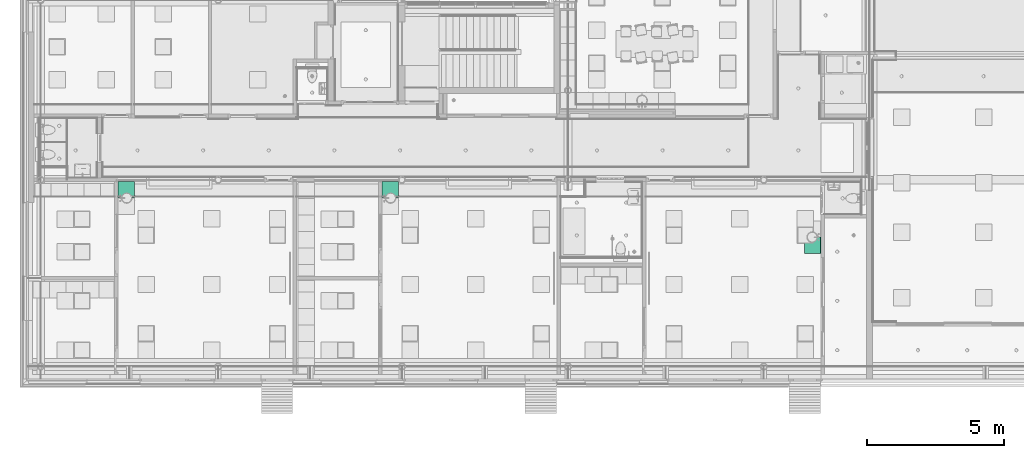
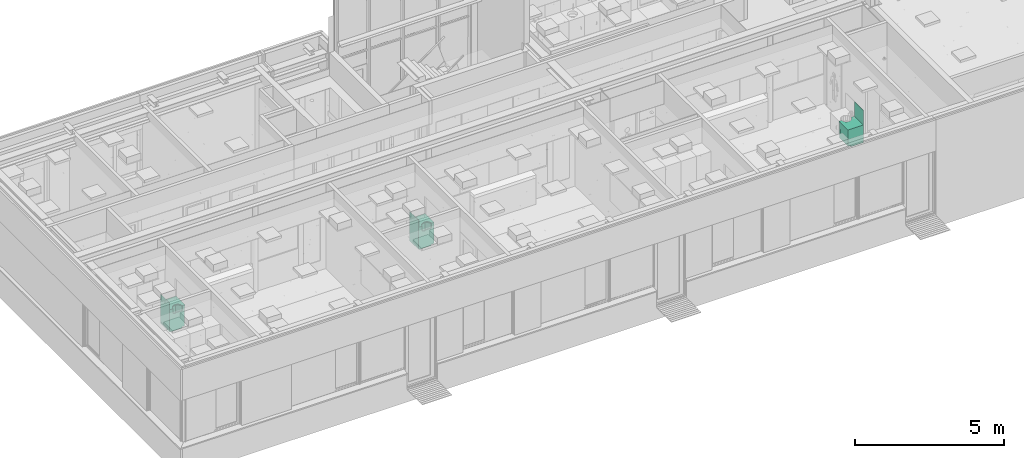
# One storey, part 301 of 347: 3 distribution elements.
"""IFC2X3 building model written with IfcOpenShell, lengths in millimetres."""

from ifc_helpers import new_model, entity, si_unit, converted_unit, derived_unit, money_unit, direction, frame, origin_with_axes, place, context, subcontext, project, spatial, faceted_brep, type_object, element, save


model = new_model("IFC2X3")

# Units and contexts
model_context = context("Model", 3, precision=0.01, world=origin_with_axes(), true_north=direction((0.0, 1.0)))
plan_context = context("Plan", 3, precision=0.01, world=origin_with_axes(), true_north=direction((0.0, 1.0)))
body_context = subcontext(model_context, "Body", "Model", "MODEL_VIEW")
ifc_project = project(units=[si_unit("LENGTHUNIT", "METRE", prefix="MILLI"), si_unit("AREAUNIT", "SQUARE_METRE"), si_unit("VOLUMEUNIT", "CUBIC_METRE"), converted_unit("PLANEANGLEUNIT", "DEGREE", entity("IfcPlaneAngleMeasure", 0.0174532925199), si_unit("PLANEANGLEUNIT", "RADIAN"), dimensions=[0, 0, 0, 0, 0, 0, 0]), money_unit("EUR"), converted_unit("TIMEUNIT", "Year", entity("IfcTimeMeasure", 31556926.0), si_unit("TIMEUNIT", "SECOND"), dimensions=[0, 0, 1, 0, 0, 0, 0]), si_unit("MASSUNIT", "GRAM", prefix="KILO"), si_unit("THERMODYNAMICTEMPERATUREUNIT", "DEGREE_CELSIUS"), si_unit("LUMINOUSINTENSITYUNIT", "LUMEN"), si_unit("ENERGYUNIT", "JOULE", prefix="MEGA"), derived_unit("THERMALCONDUCTANCEUNIT", [(si_unit("POWERUNIT", "WATT"), 1), (si_unit("LENGTHUNIT", "METRE"), -1), (si_unit("THERMODYNAMICTEMPERATUREUNIT", "KELVIN"), -1)]), derived_unit("SPECIFICHEATCAPACITYUNIT", [(si_unit("ENERGYUNIT", "JOULE"), 1), (si_unit("MASSUNIT", "GRAM", prefix="KILO"), -1), (si_unit("THERMODYNAMICTEMPERATUREUNIT", "KELVIN"), -1)]), derived_unit("MASSDENSITYUNIT", [(si_unit("MASSUNIT", "GRAM", prefix="KILO"), 1), (si_unit("VOLUMEUNIT", "CUBIC_METRE"), -1)])], contexts=[model_context, plan_context])

# Site, building, storey
site_placement = place(None, origin_with_axes())
site = spatial("IfcSite", under=ifc_project, at=site_placement, Name="Site", CompositionType="ELEMENT")
building_placement = place(site_placement, origin_with_axes())
building = spatial("IfcBuilding", under=site, at=building_placement, Name="Naam gebouw", CompositionType="ELEMENT")
storey_placement = place(building_placement, origin_with_axes())
storey = spatial("IfcBuildingStorey", under=building, at=storey_placement, Name="begane grond", CompositionType="ELEMENT", Elevation=0.0)

# Distribution elements
distribution_element_type = type_object("IfcDistributionElementType", Name="Onderkast recht 25")
distribution_element_1_placement = place(storey_placement, frame((8125.0, 12062.5, 0.0), z_axis=(0.0, 0.0, 1.0), x_axis=(0.0, 1.0, 0.0)))
element("IfcDistributionElement", 1, at=distribution_element_1_placement, inside=storey, type_object=distribution_element_type, Name="65 Beveiliging_82 pantryblok", context=body_context, shape_type="Brep", body=[
    faceted_brep([(-472.720779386, -444.012913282, 910.0), (-531.116982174, -483.03200852, 910.0), (-600.0, -496.733692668, 910.0), (-600.0, -600.0, 910.0), (0.0, -600.0, 910.0), (0.0, 0.0, 910.0), (-600.0, 0.0, 910.0), (-600.0, -136.733692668, 910.0), (-531.116982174, -150.435376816, 910.0), (-472.720779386, -189.454472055, 910.0), (-433.701684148, -247.850674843, 910.0), (-420.0, -316.733692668, 910.0), (-433.701684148, -385.616710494, 910.0), (-472.720779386, -444.012913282, 870.0), (-531.116982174, -483.03200852, 870.0), (-600.0, -496.733692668, 870.0), (-600.0, -600.0, 870.0), (0.0, -600.0, 870.0), (0.0, 0.0, 870.0), (-600.0, 0.0, 870.0), (-600.0, -136.733692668, 870.0), (-531.116982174, -150.435376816, 870.0), (-472.720779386, -189.454472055, 870.0), (-433.701684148, -247.850674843, 870.0), (-420.0, -316.733692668, 870.0), (-433.701684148, -385.616710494, 870.0)], [[[0, 1, 2, 3, 4, 5, 6, 7, 8, 9, 10, 11, 12]], [[1, 0, 13, 14]], [[2, 1, 14, 15]], [[2, 15, 16, 3]], [[16, 17, 4, 3]], [[17, 18, 5, 4]], [[18, 19, 6, 5]], [[20, 7, 6, 19]], [[8, 7, 20, 21]], [[9, 8, 21, 22]], [[10, 9, 22, 23]], [[11, 10, 23, 24]], [[12, 11, 24, 25]], [[0, 12, 25, 13]], [[21, 20, 19, 18, 17, 16, 15, 14, 13, 25, 24, 23, 22]]]),
    faceted_brep([(-18.0, -512.0, 852.0), (-18.0, -572.0, 852.0), (-582.0, -572.0, 852.0), (-582.0, -512.0, 852.0), (-18.0, -572.0, 870.0), (-18.0, -512.0, 870.0), (-582.0, -572.0, 870.0), (-582.0, -512.0, 870.0)], [[[0, 1, 2, 3]], [[4, 1, 0, 5]], [[1, 4, 6, 2]], [[3, 2, 6, 7]], [[5, 0, 3, 7]], [[4, 5, 7, 6]]]),
    faceted_brep([(-18.0, -9.0, 68.0), (-582.0, -9.0, 68.0), (-582.0, -9.0, 852.0), (-18.0, -9.0, 852.0), (-582.0, -18.0, 68.0), (-18.0, -18.0, 68.0), (-582.0, -18.0, 852.0), (-18.0, -18.0, 852.0)], [[[0, 1, 2, 3]], [[4, 1, 0, 5]], [[1, 4, 6, 2]], [[3, 2, 6, 7]], [[5, 0, 3, 7]], [[4, 5, 7, 6]]]),
    faceted_brep([(-582.0, -60.0, 852.0), (-582.0, 0.0, 852.0), (-18.0, 0.0, 852.0), (-18.0, -60.0, 852.0), (-582.0, 0.0, 870.0), (-582.0, -60.0, 870.0), (-18.0, 0.0, 870.0), (-18.0, -60.0, 870.0)], [[[0, 1, 2, 3]], [[4, 1, 0, 5]], [[1, 4, 6, 2]], [[3, 2, 6, 7]], [[5, 0, 3, 7]], [[4, 5, 7, 6]]]),
    faceted_brep([(0.0, -572.0, 50.0), (0.0, 0.0, 50.0), (0.0, 0.0, 870.0), (0.0, -572.0, 870.0), (-18.0, 0.0, 50.0), (-18.0, -572.0, 50.0), (-18.0, 0.0, 870.0), (-18.0, -572.0, 870.0)], [[[0, 1, 2, 3]], [[4, 1, 0, 5]], [[1, 4, 6, 2]], [[3, 2, 6, 7]], [[5, 0, 3, 7]], [[4, 5, 7, 6]]]),
    faceted_brep([(-582.0, -493.153270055, 710.0), (-582.0, -493.153270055, 870.0), (-582.0, -572.0, 870.0), (-582.0, -572.0, 50.0), (-582.0, 0.0, 50.0), (-582.0, 0.0, 870.0), (-582.0, -140.314115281, 870.0), (-582.0, -140.314115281, 710.0), (-582.0, -205.990597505, 710.0), (-582.0, -205.990597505, 690.0), (-582.0, -227.476787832, 690.0), (-582.0, -227.476787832, 710.0), (-600.0, -496.733692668, 870.0), (-600.0, -496.733692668, 710.0), (-600.0, -572.0, 870.0), (-600.0, -572.0, 50.0), (-600.0, 0.0, 50.0), (-600.0, 0.0, 870.0), (-600.0, -136.733692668, 870.0), (-600.0, -136.733692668, 710.0), (-585.150757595, -201.884450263, 710.0), (-600.0, -195.733692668, 710.0), (-594.564800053, -196.449250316, 710.0), (-589.5, -198.547159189, 710.0), (-585.150757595, -201.884450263, 690.0), (-600.0, -195.733692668, 690.0), (-600.0, -237.733692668, 690.0), (-594.564800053, -237.01813502, 690.0), (-589.5, -234.920226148, 690.0), (-585.150757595, -231.582935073, 690.0), (-589.5, -198.547159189, 690.0), (-594.564800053, -196.449250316, 690.0), (-585.150757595, -231.582935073, 710.0), (-600.0, -237.733692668, 710.0), (-589.5, -234.920226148, 710.0), (-594.564800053, -237.01813502, 710.0)], [[[0, 1, 2, 3, 4, 5, 6, 7, 8, 9, 10, 11]], [[12, 1, 0, 13]], [[1, 12, 14, 2]], [[15, 3, 2, 14]], [[3, 15, 16, 4]], [[4, 16, 17, 5]], [[18, 6, 5, 17]], [[7, 6, 18, 19]], [[20, 8, 7, 19, 21, 22, 23]], [[8, 20, 24, 9]], [[25, 26, 27, 28, 29, 10, 9, 24, 30, 31]], [[32, 11, 10, 29]], [[33, 13, 0, 11, 32, 34, 35]], [[13, 33, 26, 25, 21, 19, 18, 17, 16, 15, 14, 12]], [[22, 21, 25, 31]], [[23, 22, 31, 30]], [[20, 23, 30, 24]], [[33, 35, 27, 26]], [[35, 34, 28, 27]], [[34, 32, 29, 28]]]),
    faceted_brep([(-600.0, 0.0, 910.0), (0.0, 0.0, 910.0), (0.0, -6.0, 910.0), (-600.0, -6.0, 910.0), (-600.0, 0.0, 1200.0), (0.0, 0.0, 1200.0), (0.0, -6.0, 1200.0), (-600.0, -6.0, 1200.0)], [[[0, 1, 2, 3]], [[4, 5, 1, 0]], [[1, 5, 6, 2]], [[3, 2, 6, 7]], [[0, 3, 7, 4]], [[7, 6, 5, 4]]]),
    faceted_brep([(-496.0, -590.0, 386.0), (-506.0, -590.0, 386.0), (-506.0, -590.0, 396.0), (-496.0, -590.0, 396.0), (-496.0, -600.0, 386.0), (-506.0, -600.0, 386.0), (-506.0, -603.472963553, 386.30384494), (-506.0, -606.840402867, 387.206147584), (-506.0, -610.0, 388.679491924), (-506.0, -612.855752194, 390.679111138), (-506.0, -615.320888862, 393.144247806), (-506.0, -617.320508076, 396.0), (-506.0, -618.793852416, 399.159597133), (-506.0, -619.69615506, 402.527036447), (-506.0, -620.0, 406.0), (-506.0, -620.0, 516.0), (-506.0, -619.69615506, 519.472963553), (-506.0, -618.793852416, 522.840402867), (-506.0, -617.320508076, 526.0), (-506.0, -615.320888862, 528.855752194), (-506.0, -612.855752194, 531.320888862), (-506.0, -610.0, 533.320508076), (-506.0, -606.840402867, 534.793852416), (-506.0, -603.472963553, 535.69615506), (-506.0, -600.0, 536.0), (-506.0, -590.0, 536.0), (-506.0, -590.0, 526.0), (-506.0, -600.0, 526.0), (-506.0, -601.736481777, 525.84807753), (-506.0, -603.420201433, 525.396926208), (-506.0, -605.0, 524.660254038), (-506.0, -606.427876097, 523.660444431), (-506.0, -607.660444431, 522.427876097), (-506.0, -608.660254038, 521.0), (-506.0, -609.396926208, 519.420201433), (-506.0, -609.84807753, 517.736481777), (-506.0, -610.0, 516.0), (-506.0, -610.0, 406.0), (-506.0, -609.84807753, 404.263518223), (-506.0, -609.396926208, 402.579798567), (-506.0, -608.660254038, 401.0), (-506.0, -607.660444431, 399.572123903), (-506.0, -606.427876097, 398.339555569), (-506.0, -605.0, 397.339745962), (-506.0, -603.420201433, 396.603073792), (-506.0, -601.736481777, 396.15192247), (-506.0, -600.0, 396.0), (-496.0, -600.0, 396.0), (-496.0, -601.736481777, 396.15192247), (-496.0, -603.420201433, 396.603073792), (-496.0, -605.0, 397.339745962), (-496.0, -606.427876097, 398.339555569), (-496.0, -607.660444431, 399.572123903), (-496.0, -608.660254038, 401.0), (-496.0, -609.396926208, 402.579798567), (-496.0, -609.84807753, 404.263518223), (-496.0, -610.0, 406.0), (-496.0, -610.0, 516.0), (-496.0, -609.84807753, 517.736481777), (-496.0, -609.396926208, 519.420201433), (-496.0, -608.660254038, 521.0), (-496.0, -607.660444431, 522.427876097), (-496.0, -606.427876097, 523.660444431), (-496.0, -605.0, 524.660254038), (-496.0, -603.420201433, 525.396926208), (-496.0, -601.736481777, 525.84807753), (-496.0, -600.0, 526.0), (-496.0, -590.0, 526.0), (-496.0, -590.0, 536.0), (-496.0, -600.0, 536.0), (-496.0, -603.472963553, 535.69615506), (-496.0, -606.840402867, 534.793852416), (-496.0, -610.0, 533.320508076), (-496.0, -612.855752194, 531.320888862), (-496.0, -615.320888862, 528.855752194), (-496.0, -617.320508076, 526.0), (-496.0, -618.793852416, 522.840402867), (-496.0, -619.69615506, 519.472963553), (-496.0, -620.0, 516.0), (-496.0, -620.0, 406.0), (-496.0, -619.69615506, 402.527036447), (-496.0, -618.793852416, 399.159597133), (-496.0, -617.320508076, 396.0), (-496.0, -615.320888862, 393.144247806), (-496.0, -612.855752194, 390.679111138), (-496.0, -610.0, 388.679491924), (-496.0, -606.840402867, 387.206147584), (-496.0, -603.472963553, 386.30384494)], [[[0, 1, 2, 3]], [[4, 5, 1, 0]], [[1, 5, 6, 7, 8, 9, 10, 11, 12, 13, 14, 15, 16, 17, 18, 19, 20, 21, 22, 23, 24, 25, 26, 27, 28, 29, 30, 31, 32, 33, 34, 35, 36, 37, 38, 39, 40, 41, 42, 43, 44, 45, 46, 2]], [[3, 2, 46, 47]], [[0, 3, 47, 48, 49, 50, 51, 52, 53, 54, 55, 56, 57, 58, 59, 60, 61, 62, 63, 64, 65, 66, 67, 68, 69, 70, 71, 72, 73, 74, 75, 76, 77, 78, 79, 80, 81, 82, 83, 84, 85, 86, 87, 4]], [[87, 6, 5, 4]], [[86, 7, 6, 87]], [[85, 8, 7, 86]], [[84, 9, 8, 85]], [[83, 10, 9, 84]], [[82, 11, 10, 83]], [[81, 12, 11, 82]], [[80, 13, 12, 81]], [[79, 14, 13, 80]], [[78, 15, 14, 79]], [[77, 16, 15, 78]], [[76, 17, 16, 77]], [[75, 18, 17, 76]], [[74, 19, 18, 75]], [[73, 20, 19, 74]], [[72, 21, 20, 73]], [[71, 22, 21, 72]], [[70, 23, 22, 71]], [[69, 24, 23, 70]], [[68, 25, 24, 69]], [[67, 26, 25, 68]], [[66, 27, 26, 67]], [[65, 28, 27, 66]], [[64, 29, 28, 65]], [[63, 30, 29, 64]], [[62, 31, 30, 63]], [[61, 32, 31, 62]], [[60, 33, 32, 61]], [[59, 34, 33, 60]], [[58, 35, 34, 59]], [[57, 36, 35, 58]], [[56, 37, 36, 57]], [[55, 38, 37, 56]], [[54, 39, 38, 55]], [[53, 40, 39, 54]], [[52, 41, 40, 53]], [[51, 42, 41, 52]], [[50, 43, 42, 51]], [[49, 44, 43, 50]], [[48, 45, 44, 49]], [[47, 46, 45, 48]]]),
    faceted_brep([(-0.999999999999, -572.0, 51.0), (-0.999999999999, -590.0, 51.0), (-599.0, -590.0, 51.0), (-599.0, -572.0, 51.0), (-0.999999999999, -572.0, 869.0), (-0.999999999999, -590.0, 869.0), (-599.0, -590.0, 869.0), (-599.0, -572.0, 869.0)], [[[0, 1, 2, 3]], [[4, 5, 1, 0]], [[1, 5, 6, 2]], [[3, 2, 6, 7]], [[0, 3, 7, 4]], [[7, 6, 5, 4]]]),
    faceted_brep([(-18.0, -572.0, 50.0), (-18.0, -572.0, 68.0), (-582.0, -572.0, 68.0), (-582.0, -572.0, 50.0), (-18.0, 0.0, 50.0), (-18.0, 0.0, 68.0), (-582.0, 0.0, 68.0), (-582.0, 0.0, 50.0)], [[[0, 1, 2, 3]], [[4, 5, 1, 0]], [[1, 5, 6, 2]], [[3, 2, 6, 7]], [[0, 3, 7, 4]], [[7, 6, 5, 4]]]),
    faceted_brep([(0.0, -482.0, 0.0), (0.0, -482.0, 50.0), (-600.0, -482.0, 50.0), (-600.0, -482.0, 0.0), (0.0, 0.0, 0.0), (0.0, 0.0, 50.0), (-600.0, 0.0, 50.0), (-600.0, 0.0, 0.0)], [[[0, 1, 2, 3]], [[4, 5, 1, 0]], [[1, 5, 6, 2]], [[3, 2, 6, 7]], [[0, 3, 7, 4]], [[7, 6, 5, 4]]]),
])
distribution_element_2_placement = place(storey_placement, frame((33825.0, 9427.5, 0.0), z_axis=(0.0, 0.0, 1.0), x_axis=(0.0, -1.0, 0.0)))
element("IfcDistributionElement", 2, at=distribution_element_2_placement, inside=storey, type_object=distribution_element_type, Name="65 Beveiliging_82 pantryblok", context=body_context, shape_type="Brep", body=[
    faceted_brep([(-600.0, -136.733692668, 680.0), (-600.0, -136.733692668, 720.0), (-600.0, 0.0, 720.0), (-600.0, 0.0, 680.0), (-531.116982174, -150.435376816, 720.0), (-531.116982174, -150.435376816, 680.0), (-531.116982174, -483.03200852, 720.0), (-600.0, -496.733692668, 720.0), (-600.0, -600.0, 720.0), (0.0, -600.0, 720.0), (0.0, 0.0, 720.0), (-472.720779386, -189.454472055, 720.0), (-433.701684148, -247.850674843, 720.0), (-420.0, -316.733692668, 720.0), (-433.701684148, -385.616710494, 720.0), (-472.720779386, -444.012913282, 720.0), (0.0, 0.0, 680.0), (0.0, -600.0, 680.0), (-600.0, -600.0, 680.0), (-600.0, -496.733692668, 680.0), (-531.116982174, -483.03200852, 680.0), (-472.720779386, -444.012913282, 680.0), (-433.701684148, -385.616710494, 680.0), (-420.0, -316.733692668, 680.0), (-433.701684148, -247.850674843, 680.0), (-472.720779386, -189.454472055, 680.0)], [[[0, 1, 2, 3]], [[4, 1, 0, 5]], [[6, 7, 8, 9, 10, 2, 1, 4, 11, 12, 13, 14, 15]], [[16, 3, 2, 10]], [[5, 0, 3, 16, 17, 18, 19, 20, 21, 22, 23, 24, 25]], [[11, 4, 5, 25]], [[7, 6, 20, 19]], [[7, 19, 18, 8]], [[18, 17, 9, 8]], [[17, 16, 10, 9]], [[12, 11, 25, 24]], [[13, 12, 24, 23]], [[14, 13, 23, 22]], [[15, 14, 22, 21]], [[6, 15, 21, 20]]]),
    faceted_brep([(-18.0, -512.0, 662.0), (-18.0, -572.0, 662.0), (-582.0, -572.0, 662.0), (-582.0, -512.0, 662.0), (-18.0, -572.0, 680.0), (-18.0, -512.0, 680.0), (-582.0, -572.0, 680.0), (-582.0, -512.0, 680.0)], [[[0, 1, 2, 3]], [[4, 1, 0, 5]], [[1, 4, 6, 2]], [[3, 2, 6, 7]], [[5, 0, 3, 7]], [[4, 5, 7, 6]]]),
    faceted_brep([(-18.0, -9.0, 68.0), (-582.0, -9.0, 68.0), (-582.0, -9.0, 662.0), (-18.0, -9.0, 662.0), (-582.0, -18.0, 68.0), (-18.0, -18.0, 68.0), (-582.0, -18.0, 662.0), (-18.0, -18.0, 662.0)], [[[0, 1, 2, 3]], [[4, 1, 0, 5]], [[1, 4, 6, 2]], [[3, 2, 6, 7]], [[5, 0, 3, 7]], [[4, 5, 7, 6]]]),
    faceted_brep([(-582.0, -60.0, 662.0), (-582.0, 0.0, 662.0), (-18.0, 0.0, 662.0), (-18.0, -60.0, 662.0), (-582.0, 0.0, 680.0), (-582.0, -60.0, 680.0), (-18.0, 0.0, 680.0), (-18.0, -60.0, 680.0)], [[[0, 1, 2, 3]], [[4, 1, 0, 5]], [[1, 4, 6, 2]], [[3, 2, 6, 7]], [[5, 0, 3, 7]], [[4, 5, 7, 6]]]),
    faceted_brep([(0.0, -572.0, 50.0), (0.0, 0.0, 50.0), (0.0, 0.0, 680.0), (0.0, -572.0, 680.0), (-18.0, 0.0, 50.0), (-18.0, -572.0, 50.0), (-18.0, 0.0, 680.0), (-18.0, -572.0, 680.0)], [[[0, 1, 2, 3]], [[4, 1, 0, 5]], [[1, 4, 6, 2]], [[3, 2, 6, 7]], [[5, 0, 3, 7]], [[4, 5, 7, 6]]]),
    faceted_brep([(-585.150757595, -231.582935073, 520.0), (-582.0, -227.476787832, 520.0), (-582.0, -227.476787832, 500.0), (-585.150757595, -231.582935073, 500.0), (-582.0, -493.153270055, 520.0), (-589.5, -234.920226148, 520.0), (-594.564800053, -237.01813502, 520.0), (-600.0, -237.733692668, 520.0), (-600.0, -496.733692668, 520.0), (-582.0, -140.314115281, 520.0), (-582.0, -205.990597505, 520.0), (-582.0, -205.990597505, 500.0), (-582.0, -493.153270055, 680.0), (-582.0, -572.0, 680.0), (-582.0, -572.0, 50.0), (-582.0, 0.0, 50.0), (-582.0, 0.0, 680.0), (-582.0, -140.314115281, 680.0), (-600.0, -195.733692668, 500.0), (-600.0, -237.733692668, 500.0), (-594.564800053, -237.01813502, 500.0), (-589.5, -234.920226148, 500.0), (-585.150757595, -201.884450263, 500.0), (-589.5, -198.547159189, 500.0), (-594.564800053, -196.449250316, 500.0), (-600.0, -195.733692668, 520.0), (-600.0, -136.733692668, 520.0), (-600.0, -136.733692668, 680.0), (-600.0, 0.0, 680.0), (-600.0, 0.0, 50.0), (-600.0, -572.0, 50.0), (-600.0, -572.0, 680.0), (-600.0, -496.733692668, 680.0), (-594.564800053, -196.449250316, 520.0), (-589.5, -198.547159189, 520.0), (-585.150757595, -201.884450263, 520.0)], [[[0, 1, 2, 3]], [[4, 1, 0, 5, 6, 7, 8]], [[9, 10, 11, 2, 1, 4, 12, 13, 14, 15, 16, 17]], [[18, 19, 20, 21, 3, 2, 11, 22, 23, 24]], [[5, 0, 3, 21]], [[6, 5, 21, 20]], [[7, 6, 20, 19]], [[25, 26, 27, 28, 29, 30, 31, 32, 8, 7, 19, 18]], [[32, 12, 4, 8]], [[26, 25, 33, 34, 35, 10, 9]], [[10, 35, 22, 11]], [[12, 32, 31, 13]], [[30, 14, 13, 31]], [[14, 30, 29, 15]], [[15, 29, 28, 16]], [[27, 17, 16, 28]], [[17, 27, 26, 9]], [[35, 34, 23, 22]], [[34, 33, 24, 23]], [[33, 25, 18, 24]]]),
    faceted_brep([(-600.0, 0.0, 720.0), (0.0, 0.0, 720.0), (0.0, -6.0, 720.0), (-600.0, -6.0, 720.0), (-600.0, 0.0, 1320.0), (0.0, 0.0, 1320.0), (0.0, -6.0, 1320.0), (-600.0, -6.0, 1320.0)], [[[0, 1, 2, 3]], [[4, 5, 1, 0]], [[1, 5, 6, 2]], [[3, 2, 6, 7]], [[0, 3, 7, 4]], [[7, 6, 5, 4]]]),
    faceted_brep([(-496.0, -590.0, 291.0), (-506.0, -590.0, 291.0), (-506.0, -590.0, 301.0), (-496.0, -590.0, 301.0), (-496.0, -600.0, 291.0), (-506.0, -600.0, 291.0), (-506.0, -603.472963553, 291.30384494), (-506.0, -606.840402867, 292.206147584), (-506.0, -610.0, 293.679491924), (-506.0, -612.855752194, 295.679111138), (-506.0, -615.320888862, 298.144247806), (-506.0, -617.320508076, 301.0), (-506.0, -618.793852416, 304.159597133), (-506.0, -619.69615506, 307.527036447), (-506.0, -620.0, 311.0), (-506.0, -620.0, 421.0), (-506.0, -619.69615506, 424.472963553), (-506.0, -618.793852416, 427.840402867), (-506.0, -617.320508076, 431.0), (-506.0, -615.320888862, 433.855752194), (-506.0, -612.855752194, 436.320888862), (-506.0, -610.0, 438.320508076), (-506.0, -606.840402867, 439.793852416), (-506.0, -603.472963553, 440.69615506), (-506.0, -600.0, 441.0), (-506.0, -590.0, 441.0), (-506.0, -590.0, 431.0), (-506.0, -600.0, 431.0), (-506.0, -601.736481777, 430.84807753), (-506.0, -603.420201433, 430.396926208), (-506.0, -605.0, 429.660254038), (-506.0, -606.427876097, 428.660444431), (-506.0, -607.660444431, 427.427876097), (-506.0, -608.660254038, 426.0), (-506.0, -609.396926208, 424.420201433), (-506.0, -609.84807753, 422.736481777), (-506.0, -610.0, 421.0), (-506.0, -610.0, 311.0), (-506.0, -609.84807753, 309.263518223), (-506.0, -609.396926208, 307.579798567), (-506.0, -608.660254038, 306.0), (-506.0, -607.660444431, 304.572123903), (-506.0, -606.427876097, 303.339555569), (-506.0, -605.0, 302.339745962), (-506.0, -603.420201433, 301.603073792), (-506.0, -601.736481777, 301.15192247), (-506.0, -600.0, 301.0), (-496.0, -600.0, 301.0), (-496.0, -601.736481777, 301.15192247), (-496.0, -603.420201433, 301.603073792), (-496.0, -605.0, 302.339745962), (-496.0, -606.427876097, 303.339555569), (-496.0, -607.660444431, 304.572123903), (-496.0, -608.660254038, 306.0), (-496.0, -609.396926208, 307.579798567), (-496.0, -609.84807753, 309.263518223), (-496.0, -610.0, 311.0), (-496.0, -610.0, 421.0), (-496.0, -609.84807753, 422.736481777), (-496.0, -609.396926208, 424.420201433), (-496.0, -608.660254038, 426.0), (-496.0, -607.660444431, 427.427876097), (-496.0, -606.427876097, 428.660444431), (-496.0, -605.0, 429.660254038), (-496.0, -603.420201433, 430.396926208), (-496.0, -601.736481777, 430.84807753), (-496.0, -600.0, 431.0), (-496.0, -590.0, 431.0), (-496.0, -590.0, 441.0), (-496.0, -600.0, 441.0), (-496.0, -603.472963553, 440.69615506), (-496.0, -606.840402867, 439.793852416), (-496.0, -610.0, 438.320508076), (-496.0, -612.855752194, 436.320888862), (-496.0, -615.320888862, 433.855752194), (-496.0, -617.320508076, 431.0), (-496.0, -618.793852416, 427.840402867), (-496.0, -619.69615506, 424.472963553), (-496.0, -620.0, 421.0), (-496.0, -620.0, 311.0), (-496.0, -619.69615506, 307.527036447), (-496.0, -618.793852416, 304.159597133), (-496.0, -617.320508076, 301.0), (-496.0, -615.320888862, 298.144247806), (-496.0, -612.855752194, 295.679111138), (-496.0, -610.0, 293.679491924), (-496.0, -606.840402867, 292.206147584), (-496.0, -603.472963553, 291.30384494)], [[[0, 1, 2, 3]], [[4, 5, 1, 0]], [[1, 5, 6, 7, 8, 9, 10, 11, 12, 13, 14, 15, 16, 17, 18, 19, 20, 21, 22, 23, 24, 25, 26, 27, 28, 29, 30, 31, 32, 33, 34, 35, 36, 37, 38, 39, 40, 41, 42, 43, 44, 45, 46, 2]], [[3, 2, 46, 47]], [[0, 3, 47, 48, 49, 50, 51, 52, 53, 54, 55, 56, 57, 58, 59, 60, 61, 62, 63, 64, 65, 66, 67, 68, 69, 70, 71, 72, 73, 74, 75, 76, 77, 78, 79, 80, 81, 82, 83, 84, 85, 86, 87, 4]], [[87, 6, 5, 4]], [[86, 7, 6, 87]], [[85, 8, 7, 86]], [[84, 9, 8, 85]], [[83, 10, 9, 84]], [[82, 11, 10, 83]], [[81, 12, 11, 82]], [[80, 13, 12, 81]], [[79, 14, 13, 80]], [[78, 15, 14, 79]], [[77, 16, 15, 78]], [[76, 17, 16, 77]], [[75, 18, 17, 76]], [[74, 19, 18, 75]], [[73, 20, 19, 74]], [[72, 21, 20, 73]], [[71, 22, 21, 72]], [[70, 23, 22, 71]], [[69, 24, 23, 70]], [[68, 25, 24, 69]], [[67, 26, 25, 68]], [[66, 27, 26, 67]], [[65, 28, 27, 66]], [[64, 29, 28, 65]], [[63, 30, 29, 64]], [[62, 31, 30, 63]], [[61, 32, 31, 62]], [[60, 33, 32, 61]], [[59, 34, 33, 60]], [[58, 35, 34, 59]], [[57, 36, 35, 58]], [[56, 37, 36, 57]], [[55, 38, 37, 56]], [[54, 39, 38, 55]], [[53, 40, 39, 54]], [[52, 41, 40, 53]], [[51, 42, 41, 52]], [[50, 43, 42, 51]], [[49, 44, 43, 50]], [[48, 45, 44, 49]], [[47, 46, 45, 48]]]),
    faceted_brep([(-0.999999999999, -572.0, 51.0), (-0.999999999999, -590.0, 51.0), (-599.0, -590.0, 51.0), (-599.0, -572.0, 51.0), (-0.999999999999, -572.0, 679.0), (-0.999999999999, -590.0, 679.0), (-599.0, -590.0, 679.0), (-599.0, -572.0, 679.0)], [[[0, 1, 2, 3]], [[4, 5, 1, 0]], [[1, 5, 6, 2]], [[3, 2, 6, 7]], [[0, 3, 7, 4]], [[7, 6, 5, 4]]]),
    faceted_brep([(-18.0, -572.0, 50.0), (-18.0, -572.0, 68.0), (-582.0, -572.0, 68.0), (-582.0, -572.0, 50.0), (-18.0, 0.0, 50.0), (-18.0, 0.0, 68.0), (-582.0, 0.0, 68.0), (-582.0, 0.0, 50.0)], [[[0, 1, 2, 3]], [[4, 5, 1, 0]], [[1, 5, 6, 2]], [[3, 2, 6, 7]], [[0, 3, 7, 4]], [[7, 6, 5, 4]]]),
    faceted_brep([(0.0, -482.0, 0.0), (0.0, -482.0, 50.0), (-600.0, -482.0, 50.0), (-600.0, -482.0, 0.0), (0.0, 0.0, 0.0), (0.0, 0.0, 50.0), (-600.0, 0.0, 50.0), (-600.0, 0.0, 0.0)], [[[0, 1, 2, 3]], [[4, 5, 1, 0]], [[1, 5, 6, 2]], [[3, 2, 6, 7]], [[0, 3, 7, 4]], [[7, 6, 5, 4]]]),
])
distribution_element_3_placement = place(storey_placement, frame((17775.0, 12062.5, 0.0), z_axis=(0.0, 0.0, 1.0), x_axis=(0.0, 1.0, 0.0)))
element("IfcDistributionElement", 3, at=distribution_element_3_placement, inside=storey, type_object=distribution_element_type, Name="65 Beveiliging_82 pantryblok", context=body_context, shape_type="Brep", body=[
    faceted_brep([(-472.720779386, -444.012913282, 910.0), (-531.116982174, -483.03200852, 910.0), (-600.0, -496.733692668, 910.0), (-600.0, -600.0, 910.0), (0.0, -600.0, 910.0), (0.0, 0.0, 910.0), (-600.0, 0.0, 910.0), (-600.0, -136.733692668, 910.0), (-531.116982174, -150.435376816, 910.0), (-472.720779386, -189.454472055, 910.0), (-433.701684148, -247.850674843, 910.0), (-420.0, -316.733692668, 910.0), (-433.701684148, -385.616710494, 910.0), (-472.720779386, -444.012913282, 870.0), (-531.116982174, -483.03200852, 870.0), (-600.0, -496.733692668, 870.0), (-600.0, -600.0, 870.0), (0.0, -600.0, 870.0), (0.0, 0.0, 870.0), (-600.0, 0.0, 870.0), (-600.0, -136.733692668, 870.0), (-531.116982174, -150.435376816, 870.0), (-472.720779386, -189.454472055, 870.0), (-433.701684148, -247.850674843, 870.0), (-420.0, -316.733692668, 870.0), (-433.701684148, -385.616710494, 870.0)], [[[0, 1, 2, 3, 4, 5, 6, 7, 8, 9, 10, 11, 12]], [[1, 0, 13, 14]], [[2, 1, 14, 15]], [[2, 15, 16, 3]], [[16, 17, 4, 3]], [[17, 18, 5, 4]], [[18, 19, 6, 5]], [[20, 7, 6, 19]], [[8, 7, 20, 21]], [[9, 8, 21, 22]], [[10, 9, 22, 23]], [[11, 10, 23, 24]], [[12, 11, 24, 25]], [[0, 12, 25, 13]], [[21, 20, 19, 18, 17, 16, 15, 14, 13, 25, 24, 23, 22]]]),
    faceted_brep([(-18.0, -512.0, 852.0), (-18.0, -572.0, 852.0), (-582.0, -572.0, 852.0), (-582.0, -512.0, 852.0), (-18.0, -572.0, 870.0), (-18.0, -512.0, 870.0), (-582.0, -572.0, 870.0), (-582.0, -512.0, 870.0)], [[[0, 1, 2, 3]], [[4, 1, 0, 5]], [[1, 4, 6, 2]], [[3, 2, 6, 7]], [[5, 0, 3, 7]], [[4, 5, 7, 6]]]),
    faceted_brep([(-18.0, -9.0, 68.0), (-582.0, -9.0, 68.0), (-582.0, -9.0, 852.0), (-18.0, -9.0, 852.0), (-582.0, -18.0, 68.0), (-18.0, -18.0, 68.0), (-582.0, -18.0, 852.0), (-18.0, -18.0, 852.0)], [[[0, 1, 2, 3]], [[4, 1, 0, 5]], [[1, 4, 6, 2]], [[3, 2, 6, 7]], [[5, 0, 3, 7]], [[4, 5, 7, 6]]]),
    faceted_brep([(-582.0, -60.0, 852.0), (-582.0, 0.0, 852.0), (-18.0, 0.0, 852.0), (-18.0, -60.0, 852.0), (-582.0, 0.0, 870.0), (-582.0, -60.0, 870.0), (-18.0, 0.0, 870.0), (-18.0, -60.0, 870.0)], [[[0, 1, 2, 3]], [[4, 1, 0, 5]], [[1, 4, 6, 2]], [[3, 2, 6, 7]], [[5, 0, 3, 7]], [[4, 5, 7, 6]]]),
    faceted_brep([(0.0, -572.0, 50.0), (0.0, 0.0, 50.0), (0.0, 0.0, 870.0), (0.0, -572.0, 870.0), (-18.0, 0.0, 50.0), (-18.0, -572.0, 50.0), (-18.0, 0.0, 870.0), (-18.0, -572.0, 870.0)], [[[0, 1, 2, 3]], [[4, 1, 0, 5]], [[1, 4, 6, 2]], [[3, 2, 6, 7]], [[5, 0, 3, 7]], [[4, 5, 7, 6]]]),
    faceted_brep([(-582.0, -493.153270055, 710.0), (-582.0, -493.153270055, 870.0), (-582.0, -572.0, 870.0), (-582.0, -572.0, 50.0), (-582.0, 0.0, 50.0), (-582.0, 0.0, 870.0), (-582.0, -140.314115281, 870.0), (-582.0, -140.314115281, 710.0), (-582.0, -205.990597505, 710.0), (-582.0, -205.990597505, 690.0), (-582.0, -227.476787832, 690.0), (-582.0, -227.476787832, 710.0), (-600.0, -496.733692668, 870.0), (-600.0, -496.733692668, 710.0), (-600.0, -572.0, 870.0), (-600.0, -572.0, 50.0), (-600.0, 0.0, 50.0), (-600.0, 0.0, 870.0), (-600.0, -136.733692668, 870.0), (-600.0, -136.733692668, 710.0), (-585.150757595, -201.884450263, 710.0), (-600.0, -195.733692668, 710.0), (-594.564800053, -196.449250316, 710.0), (-589.5, -198.547159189, 710.0), (-585.150757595, -201.884450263, 690.0), (-600.0, -195.733692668, 690.0), (-600.0, -237.733692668, 690.0), (-594.564800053, -237.01813502, 690.0), (-589.5, -234.920226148, 690.0), (-585.150757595, -231.582935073, 690.0), (-589.5, -198.547159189, 690.0), (-594.564800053, -196.449250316, 690.0), (-585.150757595, -231.582935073, 710.0), (-600.0, -237.733692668, 710.0), (-589.5, -234.920226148, 710.0), (-594.564800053, -237.01813502, 710.0)], [[[0, 1, 2, 3, 4, 5, 6, 7, 8, 9, 10, 11]], [[12, 1, 0, 13]], [[1, 12, 14, 2]], [[15, 3, 2, 14]], [[3, 15, 16, 4]], [[4, 16, 17, 5]], [[18, 6, 5, 17]], [[7, 6, 18, 19]], [[20, 8, 7, 19, 21, 22, 23]], [[8, 20, 24, 9]], [[25, 26, 27, 28, 29, 10, 9, 24, 30, 31]], [[32, 11, 10, 29]], [[33, 13, 0, 11, 32, 34, 35]], [[13, 33, 26, 25, 21, 19, 18, 17, 16, 15, 14, 12]], [[22, 21, 25, 31]], [[23, 22, 31, 30]], [[20, 23, 30, 24]], [[33, 35, 27, 26]], [[35, 34, 28, 27]], [[34, 32, 29, 28]]]),
    faceted_brep([(-600.0, 0.0, 910.0), (0.0, 0.0, 910.0), (0.0, -6.0, 910.0), (-600.0, -6.0, 910.0), (-600.0, 0.0, 1200.0), (0.0, 0.0, 1200.0), (0.0, -6.0, 1200.0), (-600.0, -6.0, 1200.0)], [[[0, 1, 2, 3]], [[4, 5, 1, 0]], [[1, 5, 6, 2]], [[3, 2, 6, 7]], [[0, 3, 7, 4]], [[7, 6, 5, 4]]]),
    faceted_brep([(-496.0, -590.0, 386.0), (-506.0, -590.0, 386.0), (-506.0, -590.0, 396.0), (-496.0, -590.0, 396.0), (-496.0, -600.0, 386.0), (-506.0, -600.0, 386.0), (-506.0, -603.472963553, 386.30384494), (-506.0, -606.840402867, 387.206147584), (-506.0, -610.0, 388.679491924), (-506.0, -612.855752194, 390.679111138), (-506.0, -615.320888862, 393.144247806), (-506.0, -617.320508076, 396.0), (-506.0, -618.793852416, 399.159597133), (-506.0, -619.69615506, 402.527036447), (-506.0, -620.0, 406.0), (-506.0, -620.0, 516.0), (-506.0, -619.69615506, 519.472963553), (-506.0, -618.793852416, 522.840402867), (-506.0, -617.320508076, 526.0), (-506.0, -615.320888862, 528.855752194), (-506.0, -612.855752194, 531.320888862), (-506.0, -610.0, 533.320508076), (-506.0, -606.840402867, 534.793852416), (-506.0, -603.472963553, 535.69615506), (-506.0, -600.0, 536.0), (-506.0, -590.0, 536.0), (-506.0, -590.0, 526.0), (-506.0, -600.0, 526.0), (-506.0, -601.736481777, 525.84807753), (-506.0, -603.420201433, 525.396926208), (-506.0, -605.0, 524.660254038), (-506.0, -606.427876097, 523.660444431), (-506.0, -607.660444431, 522.427876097), (-506.0, -608.660254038, 521.0), (-506.0, -609.396926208, 519.420201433), (-506.0, -609.84807753, 517.736481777), (-506.0, -610.0, 516.0), (-506.0, -610.0, 406.0), (-506.0, -609.84807753, 404.263518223), (-506.0, -609.396926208, 402.579798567), (-506.0, -608.660254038, 401.0), (-506.0, -607.660444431, 399.572123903), (-506.0, -606.427876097, 398.339555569), (-506.0, -605.0, 397.339745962), (-506.0, -603.420201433, 396.603073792), (-506.0, -601.736481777, 396.15192247), (-506.0, -600.0, 396.0), (-496.0, -600.0, 396.0), (-496.0, -601.736481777, 396.15192247), (-496.0, -603.420201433, 396.603073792), (-496.0, -605.0, 397.339745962), (-496.0, -606.427876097, 398.339555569), (-496.0, -607.660444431, 399.572123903), (-496.0, -608.660254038, 401.0), (-496.0, -609.396926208, 402.579798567), (-496.0, -609.84807753, 404.263518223), (-496.0, -610.0, 406.0), (-496.0, -610.0, 516.0), (-496.0, -609.84807753, 517.736481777), (-496.0, -609.396926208, 519.420201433), (-496.0, -608.660254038, 521.0), (-496.0, -607.660444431, 522.427876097), (-496.0, -606.427876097, 523.660444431), (-496.0, -605.0, 524.660254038), (-496.0, -603.420201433, 525.396926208), (-496.0, -601.736481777, 525.84807753), (-496.0, -600.0, 526.0), (-496.0, -590.0, 526.0), (-496.0, -590.0, 536.0), (-496.0, -600.0, 536.0), (-496.0, -603.472963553, 535.69615506), (-496.0, -606.840402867, 534.793852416), (-496.0, -610.0, 533.320508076), (-496.0, -612.855752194, 531.320888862), (-496.0, -615.320888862, 528.855752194), (-496.0, -617.320508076, 526.0), (-496.0, -618.793852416, 522.840402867), (-496.0, -619.69615506, 519.472963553), (-496.0, -620.0, 516.0), (-496.0, -620.0, 406.0), (-496.0, -619.69615506, 402.527036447), (-496.0, -618.793852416, 399.159597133), (-496.0, -617.320508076, 396.0), (-496.0, -615.320888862, 393.144247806), (-496.0, -612.855752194, 390.679111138), (-496.0, -610.0, 388.679491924), (-496.0, -606.840402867, 387.206147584), (-496.0, -603.472963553, 386.30384494)], [[[0, 1, 2, 3]], [[4, 5, 1, 0]], [[1, 5, 6, 7, 8, 9, 10, 11, 12, 13, 14, 15, 16, 17, 18, 19, 20, 21, 22, 23, 24, 25, 26, 27, 28, 29, 30, 31, 32, 33, 34, 35, 36, 37, 38, 39, 40, 41, 42, 43, 44, 45, 46, 2]], [[3, 2, 46, 47]], [[0, 3, 47, 48, 49, 50, 51, 52, 53, 54, 55, 56, 57, 58, 59, 60, 61, 62, 63, 64, 65, 66, 67, 68, 69, 70, 71, 72, 73, 74, 75, 76, 77, 78, 79, 80, 81, 82, 83, 84, 85, 86, 87, 4]], [[87, 6, 5, 4]], [[86, 7, 6, 87]], [[85, 8, 7, 86]], [[84, 9, 8, 85]], [[83, 10, 9, 84]], [[82, 11, 10, 83]], [[81, 12, 11, 82]], [[80, 13, 12, 81]], [[79, 14, 13, 80]], [[78, 15, 14, 79]], [[77, 16, 15, 78]], [[76, 17, 16, 77]], [[75, 18, 17, 76]], [[74, 19, 18, 75]], [[73, 20, 19, 74]], [[72, 21, 20, 73]], [[71, 22, 21, 72]], [[70, 23, 22, 71]], [[69, 24, 23, 70]], [[68, 25, 24, 69]], [[67, 26, 25, 68]], [[66, 27, 26, 67]], [[65, 28, 27, 66]], [[64, 29, 28, 65]], [[63, 30, 29, 64]], [[62, 31, 30, 63]], [[61, 32, 31, 62]], [[60, 33, 32, 61]], [[59, 34, 33, 60]], [[58, 35, 34, 59]], [[57, 36, 35, 58]], [[56, 37, 36, 57]], [[55, 38, 37, 56]], [[54, 39, 38, 55]], [[53, 40, 39, 54]], [[52, 41, 40, 53]], [[51, 42, 41, 52]], [[50, 43, 42, 51]], [[49, 44, 43, 50]], [[48, 45, 44, 49]], [[47, 46, 45, 48]]]),
    faceted_brep([(-0.999999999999, -572.0, 51.0), (-0.999999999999, -590.0, 51.0), (-599.0, -590.0, 51.0), (-599.0, -572.0, 51.0), (-0.999999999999, -572.0, 869.0), (-0.999999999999, -590.0, 869.0), (-599.0, -590.0, 869.0), (-599.0, -572.0, 869.0)], [[[0, 1, 2, 3]], [[4, 5, 1, 0]], [[1, 5, 6, 2]], [[3, 2, 6, 7]], [[0, 3, 7, 4]], [[7, 6, 5, 4]]]),
    faceted_brep([(-18.0, -572.0, 50.0), (-18.0, -572.0, 68.0), (-582.0, -572.0, 68.0), (-582.0, -572.0, 50.0), (-18.0, 0.0, 50.0), (-18.0, 0.0, 68.0), (-582.0, 0.0, 68.0), (-582.0, 0.0, 50.0)], [[[0, 1, 2, 3]], [[4, 5, 1, 0]], [[1, 5, 6, 2]], [[3, 2, 6, 7]], [[0, 3, 7, 4]], [[7, 6, 5, 4]]]),
    faceted_brep([(0.0, -482.0, 0.0), (0.0, -482.0, 50.0), (-600.0, -482.0, 50.0), (-600.0, -482.0, 0.0), (0.0, 0.0, 0.0), (0.0, 0.0, 50.0), (-600.0, 0.0, 50.0), (-600.0, 0.0, 0.0)], [[[0, 1, 2, 3]], [[4, 5, 1, 0]], [[1, 5, 6, 2]], [[3, 2, 6, 7]], [[0, 3, 7, 4]], [[7, 6, 5, 4]]]),
])

save(model, "model.ifc")
